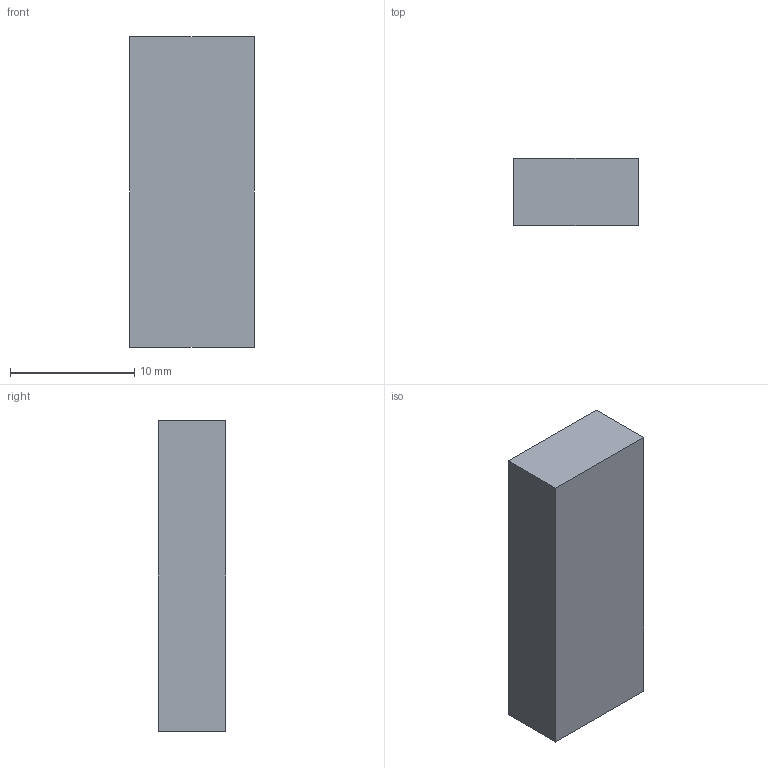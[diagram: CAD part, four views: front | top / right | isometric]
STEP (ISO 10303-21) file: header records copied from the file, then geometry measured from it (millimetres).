
FILE_DESCRIPTION(('sldprt2step conversion of Parasolid XT B-rep'),'2;1');
FILE_NAME('connector.SLDPRT','',(''),(''),'sldprt2step','','');
FILE_SCHEMA(('AUTOMOTIVE_DESIGN { 1 0 10303 214 1 1 1 1 }'));
Length unit declared in the file: millimetre
Products named in the file (1): connector
Bounding box: 10 x 5.4 x 24.97 mm (x, y, z)
Volume: 1348.4 mm3; surface area: 877.1 mm2
Topology: 1 solids, 1 shells, 6 faces, 12 edges, 8 vertices
Faces by surface type: plane 6
Entity records: 165 total; most frequent: CARTESIAN_POINT 27, DIRECTION 26, ORIENTED_EDGE 24, VECTOR 12, LINE 12, EDGE_CURVE 12, VERTEX_POINT 8, AXIS2_PLACEMENT_3D 7
